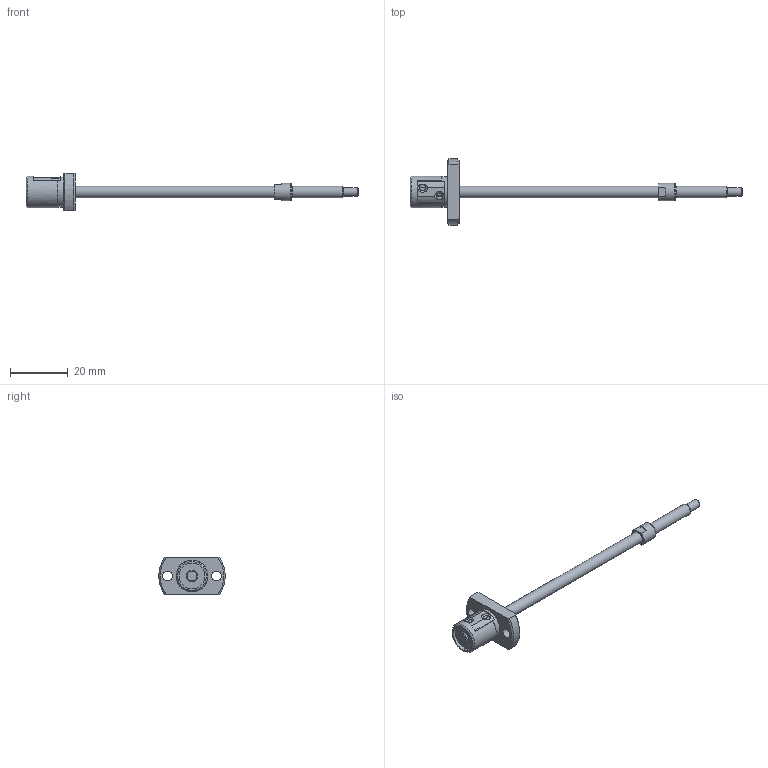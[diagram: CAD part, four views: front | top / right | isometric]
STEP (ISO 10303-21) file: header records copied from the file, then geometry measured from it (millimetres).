
FILE_DESCRIPTION( ( 'STEP AP203' ), '1' );
FILE_NAME( 'e:/temp/worker_90/temp/exporttempdir_2892_24_kd3xe/format_0/SG0401-083R115C3A1X(0).stp', '2021-10-19T00:27:02', ( 'License CC BY-ND 4.0' ), ( 'CADENAS' ), ' ', 'PARTsolutions', ' ' );
FILE_SCHEMA( ( 'CONFIG_CONTROL_DESIGN' ) );
Length unit declared in the file: millimetre
Products named in the file (3): SG0401-083R115C3A1X(0); _SG0401-83R115C3A_shaft; _SG0401_nut
Assembly tree (2 placements, depth 2):
  SG0401-083R115C3A1X(0)
    _SG0401-83R115C3A_shaft
    _SG0401_nut
Bounding box: 115 x 22.92 x 13 mm (x, y, z)
Volume: 3425.3 mm3; surface area: 3064.4 mm2
Topology: 2 solids, 2 shells, 71 faces, 174 edges, 115 vertices
Faces by surface type: plane 34, cylinder 23, cone 13, torus 1
Full cylindrical faces by diameter (mm): 3 x1, 3.4 x2, 4 x3, 6 x1, 9 x2, 10.6 x1, 11 x1
Entity records: 2078 total; most frequent: CARTESIAN_POINT 400, DIRECTION 340, ORIENTED_EDGE 286, EDGE_CURVE 143, AXIS2_PLACEMENT_3D 141, EDGE_LOOP 106, VERTEX_POINT 105, FACE_OUTER_BOUND 83
